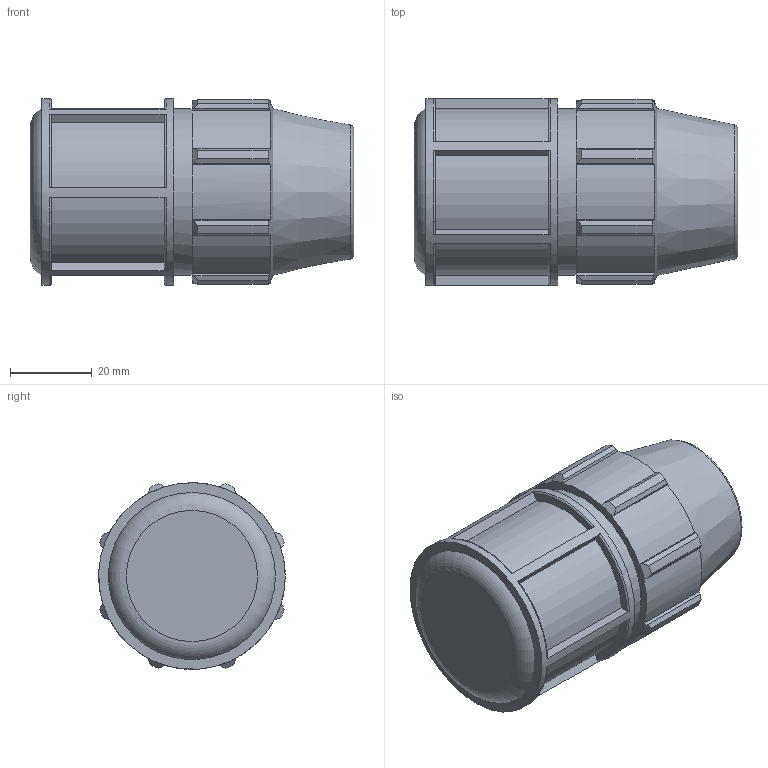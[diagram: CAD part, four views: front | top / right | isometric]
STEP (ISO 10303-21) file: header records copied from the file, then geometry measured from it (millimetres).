
FILE_DESCRIPTION(/* description */ ('PLASSON END PLUG 1/2'''''),/* implementation_level */ '2;1');
FILE_NAME(/* name */ 'C:\Dropbox\KIMPROJECTS-Inventor 2019\99-16-3568-Processing Inch\ASTM Compression 2021\0712M0\0712M0050.ipt.stp',/* time_stamp */ '2021-08-26T12:33:09+03:00',/* author */ ('Кирилл'),/* organization */ (''),/* preprocessor_version */ 'ST-DEVELOPER v17.2',/* originating_system */ 'Autodesk Inventor 2019',/* authorisation */ '');
FILE_SCHEMA (('AUTOMOTIVE_DESIGN { 1 0 10303 214 3 1 1 }'));
Length unit declared in the file: inch
Products named in the file (1): 0712M0050
Bounding box: 78.99 x 45.58 x 45.6 mm (x, y, z)
Volume: 79206.5 mm3; surface area: 20067 mm2
Topology: 1 solids, 1 shells, 115 faces, 317 edges, 215 vertices
Faces by surface type: plane 63, cylinder 25, torus 15, cone 12
Full cylindrical faces by diameter (mm): 21.2 x1, 40.805 x1, 45.606 x1
Entity records: 4019 total; most frequent: CARTESIAN_POINT 928, ORIENTED_EDGE 634, DIRECTION 603, EDGE_CURVE 317, AXIS2_PLACEMENT_3D 226, VERTEX_POINT 215, LINE 151, VECTOR 151
